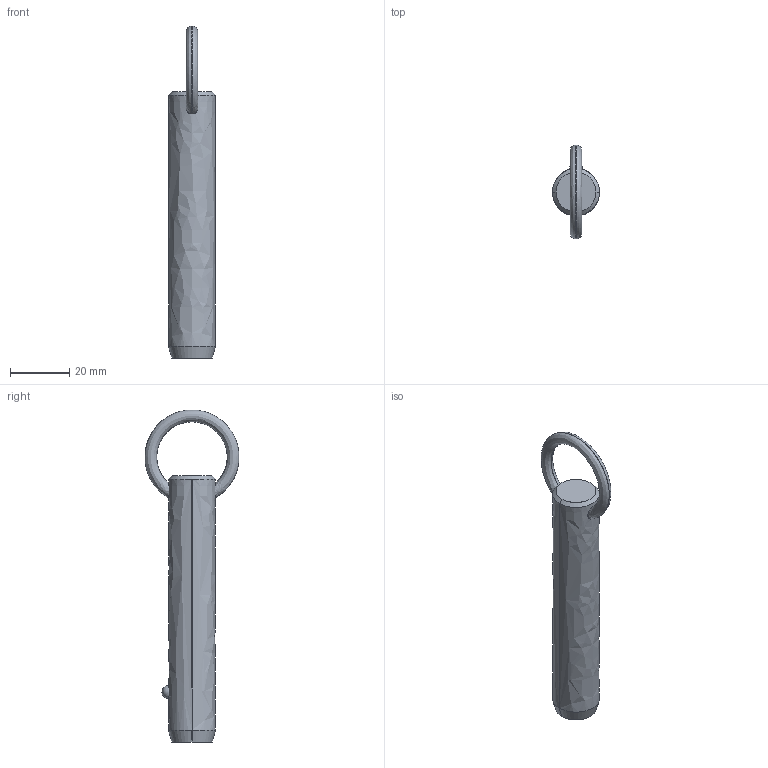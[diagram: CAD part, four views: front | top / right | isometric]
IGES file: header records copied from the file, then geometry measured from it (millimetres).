
Start section: SolidWorks IGES file using analytic representation for surfaces
Global section: file name: C:\Users\liam_\OneDrive\Documents\WORK\Work for WixRoyd\Job Files\J-00019 - Matt Davis CAD Checking\04. CAD Drawings\automotion20190605\P1250.2_v2\P1250.2_v2_20190729_IGES\P1250.062-240.igs; native system: SolidWorks 2017; preprocessor: SolidWorks 2017; author: liam_; date: 190729.233300; units: millimetre
Bounding box: 15.8 x 31.61 x 111.68 mm (x, y, z)
Surface area: 5616.4 mm2 (no closed solid volume)
Topology: 0 solids, 0 shells, 12 faces, 292 edges, 290 vertices
Faces by surface type: revolution 8, bspline 4
